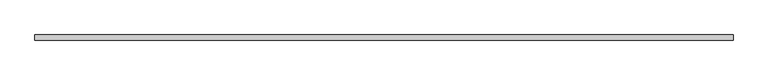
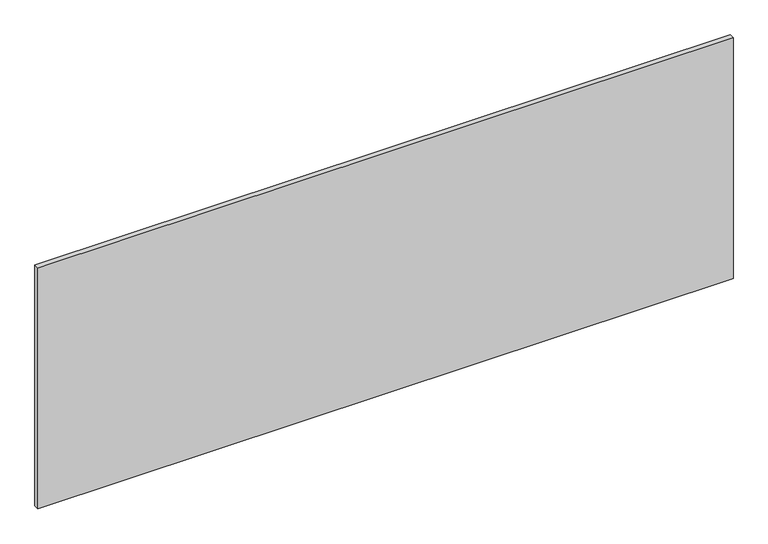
"""IFC4 building model written with IfcOpenShell, lengths in millimetres: proxy geometry, SU.HS.FOOT.1200."""

from ifc_helpers import new_model, si_unit, frame, origin, place, context, project, spatial, polyline, outline, extrude, source, transform, mapped, element, save


def generic_models_026cdfcf(model_context):
    return source(origin(), model_context, "Body", "SweptSolid", [
        extrude(outline(polyline([(-682.0, 0.0), (682.0, 0.0), (682.0, -10.0), (-682.0, -10.0), (-682.0, 0.0)])), frame((0.0, 0.0, -100.0), z_axis=(0.0, 0.0, 1.0), x_axis=(1.0, 0.0, 0.0)), (0.0, 0.0, 1.0), 500.0),
    ])


if __name__ == "__main__":
    model = new_model("IFC4")
    model_context = context("Model", 3, world=origin())
    ifc_project = project(units=[si_unit("LENGTHUNIT", "METRE", prefix="MILLI")], contexts=[model_context])
    site = spatial("IfcSite", under=ifc_project)
    building = spatial("IfcBuilding", under=site)
    placement = place(None, origin())
    generic_models_shape = generic_models_026cdfcf(model_context)
    element("IfcBuildingElementProxy", 1, Name="SU.HS.FOOT.1200", ObjectType="SU.HS.FOOT.1200", at=placement, inside=building, context=model_context, shape_type="MappedRepresentation", body=[
        mapped(generic_models_shape, transform((0.0, 0.0, 0.0), x_axis=(1.0, 0.0, 0.0), y_axis=(0.0, 1.0, 0.0), z_axis=(0.0, 0.0, 1.0))),
    ])
    save(model, "model.ifc")
